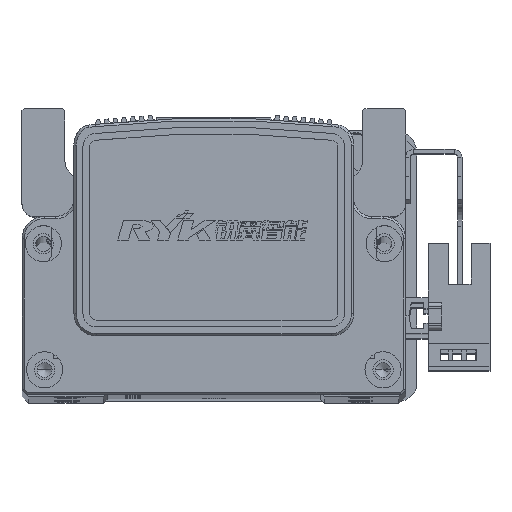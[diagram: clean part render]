
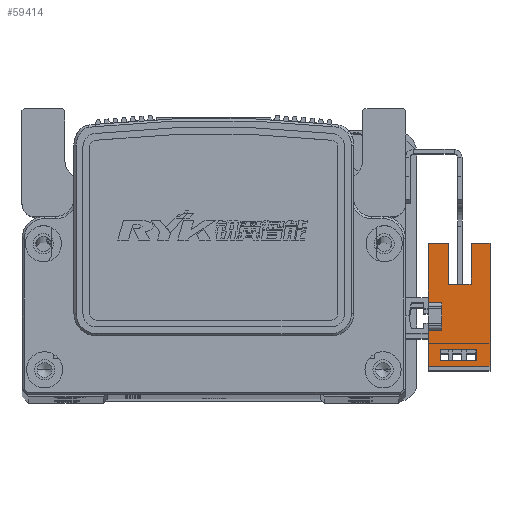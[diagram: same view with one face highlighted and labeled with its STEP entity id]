
A CAD part, top view. The second image highlights one B-rep face of the part: STEP entity #59414.
In plain terms, the highlighted planar face has unit normal (0, 0, 1) as drawn and (1, 0, 0) by its records, which use the part's own axes.
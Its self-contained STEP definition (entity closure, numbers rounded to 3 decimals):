
#9776 = LINE ( 'NONE', #15249, #9783 ) ;
#9783 = VECTOR ( 'NONE', #15216, 1000. ) ;
#9812 = LINE ( 'NONE', #15281, #9853 ) ;
#9853 = VECTOR ( 'NONE', #15286, 1000. ) ;
#9877 = LINE ( 'NONE', #15371, #9915 ) ;
#9905 = LINE ( 'NONE', #15412, #9906 ) ;
#9906 = VECTOR ( 'NONE', #15376, 1000. ) ;
#9915 = VECTOR ( 'NONE', #15364, 1000. ) ;
#9954 = LINE ( 'NONE', #12552, #9962 ) ;
#9962 = VECTOR ( 'NONE', #12631, 1000. ) ;
#10005 = VECTOR ( 'NONE', #12687, 1000. ) ;
#10025 = LINE ( 'NONE', #12784, #10043 ) ;
#10027 = LINE ( 'NONE', #12636, #10005 ) ;
#10043 = VECTOR ( 'NONE', #12750, 1000. ) ;
#10088 = VECTOR ( 'NONE', #12988, 1000. ) ;
#10101 = LINE ( 'NONE', #13004, #10088 ) ;
#10135 = VECTOR ( 'NONE', #12968, 1000. ) ;
#10152 = LINE ( 'NONE', #13062, #10153 ) ;
#10153 = VECTOR ( 'NONE', #13039, 1000. ) ;
#10182 = LINE ( 'NONE', #12960, #10135 ) ;
#10188 = VECTOR ( 'NONE', #13530, 1000. ) ;
#10189 = LINE ( 'NONE', #13513, #10192 ) ;
#10190 = VECTOR ( 'NONE', #13430, 1000. ) ;
#10192 = VECTOR ( 'NONE', #13495, 1000. ) ;
#10198 = LINE ( 'NONE', #13350, #10217 ) ;
#10217 = VECTOR ( 'NONE', #13362, 1000. ) ;
#10229 = VECTOR ( 'NONE', #13117, 1000. ) ;
#10232 = LINE ( 'NONE', #13115, #10238 ) ;
#10233 = LINE ( 'NONE', #13525, #10188 ) ;
#10238 = VECTOR ( 'NONE', #13195, 1000. ) ;
#10241 = LINE ( 'NONE', #13413, #10190 ) ;
#10243 = LINE ( 'NONE', #13176, #10229 ) ;
#12552 = CARTESIAN_POINT ( 'NONE',  ( 3.2, 16.1, -10.7 ) ) ;
#12631 = DIRECTION ( 'NONE',  ( 0., 0., 1. ) ) ;
#12636 = CARTESIAN_POINT ( 'NONE',  ( 3.2, 25.1, -1.5 ) ) ;
#12687 = DIRECTION ( 'NONE',  ( 0., 1., 0. ) ) ;
#12750 = DIRECTION ( 'NONE',  ( 0., 0., 1. ) ) ;
#12784 = CARTESIAN_POINT ( 'NONE',  ( 3.2, -11.1, 3. ) ) ;
#12960 = CARTESIAN_POINT ( 'NONE',  ( 3.2, -9.83, -10.7 ) ) ;
#12968 = DIRECTION ( 'NONE',  ( 0., 0., -1. ) ) ;
#12988 = DIRECTION ( 'NONE',  ( 0., 0., 1. ) ) ;
#13004 = CARTESIAN_POINT ( 'NONE',  ( 3.2, -7.33, -10.7 ) ) ;
#13039 = DIRECTION ( 'NONE',  ( 0., 1., 0. ) ) ;
#13062 = CARTESIAN_POINT ( 'NONE',  ( 3.2, 16.1, -7.7 ) ) ;
#13115 = CARTESIAN_POINT ( 'NONE',  ( 3.2, 0., 0. ) ) ;
#13117 = DIRECTION ( 'NONE',  ( 0., 0., 1. ) ) ;
#13176 = CARTESIAN_POINT ( 'NONE',  ( 3.2, 3.1, 3. ) ) ;
#13195 = DIRECTION ( 'NONE',  ( 0., 1., 0. ) ) ;
#13350 = CARTESIAN_POINT ( 'NONE',  ( 3.2, -3.1, 3. ) ) ;
#13362 = DIRECTION ( 'NONE',  ( 0., 0., -1. ) ) ;
#13413 = CARTESIAN_POINT ( 'NONE',  ( 3.2, 7.1, -6.5 ) ) ;
#13430 = DIRECTION ( 'NONE',  ( 0., 0., 1. ) ) ;
#13495 = DIRECTION ( 'NONE',  ( 0., 1., 0. ) ) ;
#13513 = CARTESIAN_POINT ( 'NONE',  ( 3.2, 16.1, -10.7 ) ) ;
#13525 = CARTESIAN_POINT ( 'NONE',  ( 3.2, 25.1, -6.5 ) ) ;
#13530 = DIRECTION ( 'NONE',  ( 0., -1., 0. ) ) ;
#15216 = DIRECTION ( 'NONE',  ( 0., 1., 0. ) ) ;
#15249 = CARTESIAN_POINT ( 'NONE',  ( 3.2, 16.1, 3. ) ) ;
#15281 = CARTESIAN_POINT ( 'NONE',  ( 3.2, 16.1, 3. ) ) ;
#15286 = DIRECTION ( 'NONE',  ( 0., 1., 0. ) ) ;
#15364 = DIRECTION ( 'NONE',  ( 0., -1., 0. ) ) ;
#15371 = CARTESIAN_POINT ( 'NONE',  ( 3.2, 16.1, 0.3 ) ) ;
#15376 = DIRECTION ( 'NONE',  ( 0., 0., 1. ) ) ;
#15412 = CARTESIAN_POINT ( 'NONE',  ( 3.2, 16.1, -10.7 ) ) ;
#20930 = CARTESIAN_POINT ( 'NONE',  ( 3.2, 16.1, -10.7 ) ) ;
#20942 = PLANE ( 'NONE',  #47410 ) ;
#20943 = DIRECTION ( 'NONE',  ( 0., 1., 0. ) ) ;
#20951 = DIRECTION ( 'NONE',  ( 1., 0., 0. ) ) ;
#24653 = CARTESIAN_POINT ( 'NONE',  ( 3.2, -11.1, 3. ) ) ;
#24662 = CARTESIAN_POINT ( 'NONE',  ( 3.2, -11.1, -10.7 ) ) ;
#24667 = CARTESIAN_POINT ( 'NONE',  ( 3.2, 3.1, 0. ) ) ;
#24695 = CARTESIAN_POINT ( 'NONE',  ( 3.2, 16.1, -10.7 ) ) ;
#24697 = CARTESIAN_POINT ( 'NONE',  ( 3.2, 7.1, -6.5 ) ) ;
#24699 = CARTESIAN_POINT ( 'NONE',  ( 3.2, 16.1, -6.5 ) ) ;
#24705 = CARTESIAN_POINT ( 'NONE',  ( 3.2, 3.1, 3. ) ) ;
#24715 = CARTESIAN_POINT ( 'NONE',  ( 3.2, -7.33, -7.7 ) ) ;
#24718 = CARTESIAN_POINT ( 'NONE',  ( 3.2, -3.1, 3. ) ) ;
#24731 = CARTESIAN_POINT ( 'NONE',  ( 3.2, -3.1, 0. ) ) ;
#24743 = CARTESIAN_POINT ( 'NONE',  ( 3.2, -7.33, 0.3 ) ) ;
#24744 = CARTESIAN_POINT ( 'NONE',  ( 3.2, 16.1, -1.5 ) ) ;
#24746 = CARTESIAN_POINT ( 'NONE',  ( 3.2, -9.83, 0.3 ) ) ;
#24760 = CARTESIAN_POINT ( 'NONE',  ( 3.2, 7.1, -1.5 ) ) ;
#24766 = CARTESIAN_POINT ( 'NONE',  ( 3.2, 16.1, 3. ) ) ;
#24797 = CARTESIAN_POINT ( 'NONE',  ( 3.2, -9.83, -7.7 ) ) ;
#29338 = EDGE_CURVE ( 'NONE', #47640, #47727, #9776, .T. ) ;
#29350 = EDGE_CURVE ( 'NONE', #47569, #47768, #9812, .T. ) ;
#29392 = EDGE_CURVE ( 'NONE', #47723, #47760, #9877, .T. ) ;
#29414 = EDGE_CURVE ( 'NONE', #47553, #47652, #9905, .T. ) ;
#29452 = EDGE_CURVE ( 'NONE', #47745, #47727, #9954, .T. ) ;
#29464 = EDGE_CURVE ( 'NONE', #47721, #47745, #10027, .T. ) ;
#29488 = EDGE_CURVE ( 'NONE', #47592, #47569, #10025, .T. ) ;
#29522 = EDGE_CURVE ( 'NONE', #47696, #47723, #10101, .T. ) ;
#29534 = EDGE_CURVE ( 'NONE', #47760, #47895, #10182, .T. ) ;
#29550 = EDGE_CURVE ( 'NONE', #47895, #47696, #10152, .T. ) ;
#29562 = EDGE_CURVE ( 'NONE', #47772, #47614, #10232, .T. ) ;
#29564 = EDGE_CURVE ( 'NONE', #47614, #47640, #10243, .T. ) ;
#29572 = EDGE_CURVE ( 'NONE', #47637, #47721, #10241, .T. ) ;
#29576 = EDGE_CURVE ( 'NONE', #47768, #47772, #10198, .T. ) ;
#29578 = EDGE_CURVE ( 'NONE', #47652, #47637, #10233, .T. ) ;
#29586 = EDGE_CURVE ( 'NONE', #47592, #47553, #10189, .T. ) ;
#34657 = FACE_BOUND ( 'NONE', #55145, .T. ) ;
#34659 = FACE_OUTER_BOUND ( 'NONE', #55157, .T. ) ;
#47410 = AXIS2_PLACEMENT_3D ( 'NONE', #20930, #20951, #20943 ) ;
#47553 = VERTEX_POINT ( 'NONE', #24695 ) ;
#47569 = VERTEX_POINT ( 'NONE', #24653 ) ;
#47592 = VERTEX_POINT ( 'NONE', #24662 ) ;
#47614 = VERTEX_POINT ( 'NONE', #24667 ) ;
#47637 = VERTEX_POINT ( 'NONE', #24697 ) ;
#47640 = VERTEX_POINT ( 'NONE', #24705 ) ;
#47652 = VERTEX_POINT ( 'NONE', #24699 ) ;
#47696 = VERTEX_POINT ( 'NONE', #24715 ) ;
#47721 = VERTEX_POINT ( 'NONE', #24760 ) ;
#47723 = VERTEX_POINT ( 'NONE', #24743 ) ;
#47727 = VERTEX_POINT ( 'NONE', #24766 ) ;
#47745 = VERTEX_POINT ( 'NONE', #24744 ) ;
#47760 = VERTEX_POINT ( 'NONE', #24746 ) ;
#47768 = VERTEX_POINT ( 'NONE', #24718 ) ;
#47772 = VERTEX_POINT ( 'NONE', #24731 ) ;
#47895 = VERTEX_POINT ( 'NONE', #24797 ) ;
#49259 = ORIENTED_EDGE ( 'NONE', *, *, #29452, .T. ) ;
#49273 = ORIENTED_EDGE ( 'NONE', *, *, #29522, .F. ) ;
#49275 = ORIENTED_EDGE ( 'NONE', *, *, #29338, .F. ) ;
#49278 = ORIENTED_EDGE ( 'NONE', *, *, #29550, .F. ) ;
#49287 = ORIENTED_EDGE ( 'NONE', *, *, #29392, .F. ) ;
#49288 = ORIENTED_EDGE ( 'NONE', *, *, #29578, .T. ) ;
#49293 = ORIENTED_EDGE ( 'NONE', *, *, #29564, .F. ) ;
#49300 = ORIENTED_EDGE ( 'NONE', *, *, #29562, .F. ) ;
#49303 = ORIENTED_EDGE ( 'NONE', *, *, #29576, .F. ) ;
#49304 = ORIENTED_EDGE ( 'NONE', *, *, #29586, .T. ) ;
#49307 = ORIENTED_EDGE ( 'NONE', *, *, #29464, .T. ) ;
#49308 = ORIENTED_EDGE ( 'NONE', *, *, #29350, .F. ) ;
#49313 = ORIENTED_EDGE ( 'NONE', *, *, #29414, .T. ) ;
#49317 = ORIENTED_EDGE ( 'NONE', *, *, #29572, .T. ) ;
#49333 = ORIENTED_EDGE ( 'NONE', *, *, #29534, .F. ) ;
#49359 = ORIENTED_EDGE ( 'NONE', *, *, #29488, .F. ) ;
#55145 = EDGE_LOOP ( 'NONE', ( #49287, #49273, #49278, #49333 ) ) ;
#55157 = EDGE_LOOP ( 'NONE', ( #49288, #49317, #49307, #49259, #49275, #49293, #49300, #49303, #49308, #49359, #49304, #49313 ) ) ;
#59414 = ADVANCED_FACE ( 'NONE', ( #34659, #34657 ), #20942, .T. ) ;
